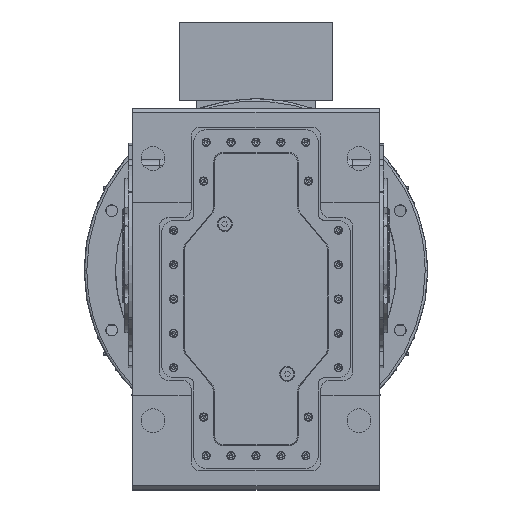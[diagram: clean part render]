
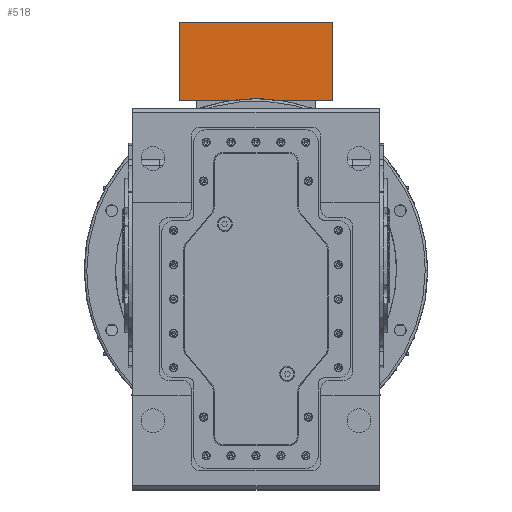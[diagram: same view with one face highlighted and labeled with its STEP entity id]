
A CAD part, top view. The second image highlights one B-rep face of the part: STEP entity #518.
In plain terms, the highlighted planar face has unit normal (0, 0, 1).
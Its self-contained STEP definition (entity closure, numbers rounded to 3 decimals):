
#518 = ADVANCED_FACE ( 'NONE', ( #77160 ), #83010, .F. ) ;
#10810 = VERTEX_POINT ( 'NONE', #35334 ) ;
#10854 = VERTEX_POINT ( 'NONE', #35388 ) ;
#10894 = VERTEX_POINT ( 'NONE', #35372 ) ;
#10947 = VERTEX_POINT ( 'NONE', #35493 ) ;
#29235 = ORIENTED_EDGE ( 'NONE', *, *, #37447, .T. ) ;
#29256 = ORIENTED_EDGE ( 'NONE', *, *, #37440, .T. ) ;
#29326 = ORIENTED_EDGE ( 'NONE', *, *, #37277, .F. ) ;
#29365 = ORIENTED_EDGE ( 'NONE', *, *, #37375, .F. ) ;
#29767 = EDGE_LOOP ( 'NONE', ( #29235, #29326, #29365, #29256 ) ) ;
#35334 = CARTESIAN_POINT ( 'NONE',  ( 123., 398., 512.99 ) ) ;
#35372 = CARTESIAN_POINT ( 'NONE',  ( -123., 398., 512.99 ) ) ;
#35388 = CARTESIAN_POINT ( 'NONE',  ( -123., 273., 512.99 ) ) ;
#35493 = CARTESIAN_POINT ( 'NONE',  ( 123., 273., 512.99 ) ) ;
#37277 = EDGE_CURVE ( 'NONE', #10894, #10810, #107989, .T. ) ;
#37375 = EDGE_CURVE ( 'NONE', #10854, #10894, #108062, .T. ) ;
#37440 = EDGE_CURVE ( 'NONE', #10854, #10947, #108075, .T. ) ;
#37447 = EDGE_CURVE ( 'NONE', #10947, #10810, #108115, .T. ) ;
#68740 = AXIS2_PLACEMENT_3D ( 'NONE', #82997, #83011, #83012 ) ;
#77160 = FACE_OUTER_BOUND ( 'NONE', #29767, .T. ) ;
#82997 = CARTESIAN_POINT ( 'NONE',  ( 0., 398., 512.99 ) ) ;
#83010 = PLANE ( 'NONE',  #68740 ) ;
#83011 = DIRECTION ( 'NONE',  ( 0., 0., -1. ) ) ;
#83012 = DIRECTION ( 'NONE',  ( -1., 0., 0. ) ) ;
#106364 = CARTESIAN_POINT ( 'NONE',  ( -123., 398., 512.99 ) ) ;
#106370 = DIRECTION ( 'NONE',  ( 0., 1., 0. ) ) ;
#107388 = DIRECTION ( 'NONE',  ( 1., 0., 0. ) ) ;
#107408 = CARTESIAN_POINT ( 'NONE',  ( 0., 398., 512.99 ) ) ;
#107989 = LINE ( 'NONE', #107408, #108020 ) ;
#108020 = VECTOR ( 'NONE', #107388, 1000. ) ;
#108037 = VECTOR ( 'NONE', #106370, 1000. ) ;
#108062 = LINE ( 'NONE', #106364, #108037 ) ;
#108075 = LINE ( 'NONE', #109749, #108078 ) ;
#108078 = VECTOR ( 'NONE', #109737, 1000. ) ;
#108115 = LINE ( 'NONE', #109728, #108122 ) ;
#108122 = VECTOR ( 'NONE', #109723, 1000. ) ;
#109723 = DIRECTION ( 'NONE',  ( 0., 1., 0. ) ) ;
#109728 = CARTESIAN_POINT ( 'NONE',  ( 123., 398., 512.99 ) ) ;
#109737 = DIRECTION ( 'NONE',  ( 1., 0., 0. ) ) ;
#109749 = CARTESIAN_POINT ( 'NONE',  ( 123., 273., 512.99 ) ) ;
